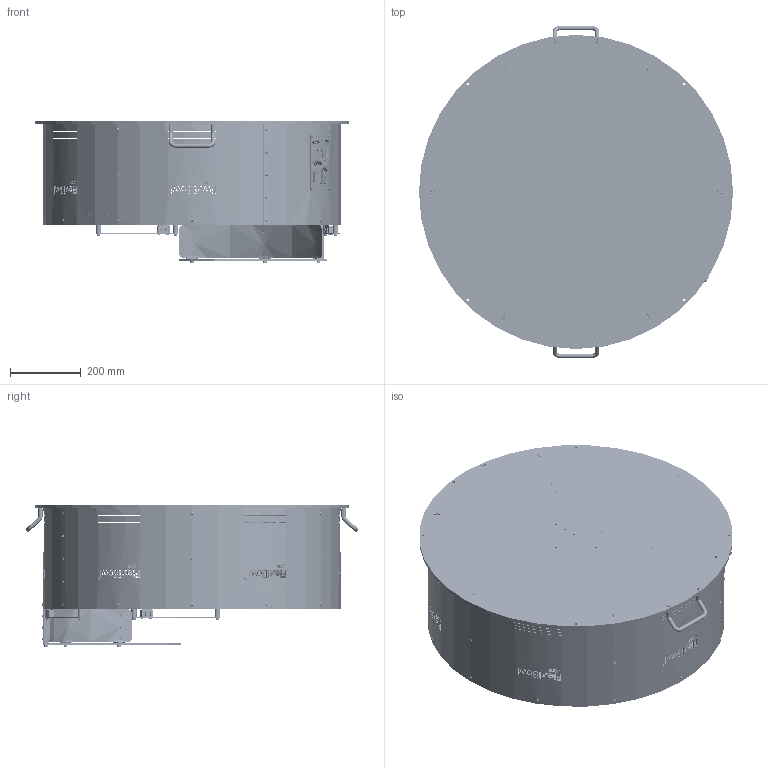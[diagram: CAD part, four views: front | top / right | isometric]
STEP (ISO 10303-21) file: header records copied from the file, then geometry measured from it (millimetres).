
FILE_DESCRIPTION (( 'STEP AP214' ), '1' );
FILE_NAME ('FB800C.STEP', '2021-09-09T13:43:02', ( '' ), ( '' ), 'SwSTEP 2.0', 'SolidWorks 2020', '' );
FILE_SCHEMA (( 'AUTOMOTIVE_DESIGN' ));
Length unit declared in the file: millimetre
Products named in the file (71): PD001063; CE000327; PD000137; Copia di 39-01-2025^CE000302; Copia di CE000327^CE000327; CE000302; PD001101; CM000008_001; PD001744; Copia di 39-01-2045^CE000326; CM000008; PD001743; PD001086; CM000025; CM000686_001; CE000013; PD001360_FB800; CM000686_002; CE000030; CM000051; CE000326; CM000024; PD001585; CM000027; CM000050; CM000006; CM000008_004; PD001124; CM000015_001; PD001122; PD002029; CM000015; CM000091; FB800C; PD001569; Copia di Led RDY_FLT^CE000326; CM000001; CM000008_003; PD001440; PD001356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
Assembly tree (202 placements, depth 3):
  FB800C
    CM000032  x4
    CM000031  x9
    CM000170  x6
    CM000048  x28
    CM000478  x9
    CM000050  x3
    CM000166  x8
    CM000642  x4
    CM000035  x4
    CM000027  x4
    CM000091  x2
    CM000086  x15
    CM000051  x4
    CM000025  x4
    CM000043  x2
    CM000026  x10
    CM000024  x10
    CM000006  x4
    PD001086
    CM000001  x2
    PD001440  x6
    PD001569
    PD001744
    PD001743
    PD001736  x2
    PD000137
    PD001063
    PD001585  x3
    PD001583  x3
    PD001087
    PD001101
    PD000043  x4
    PD001123  x2
    PD001119  x2
    PD001124
    PD001122
    PD001356
    PD000709
    PD001360_FB800
    CE000007
    CM000015  x2
      CM000015_001
      CM000015_002
    CE000013  x2
    CE000005
    CM000008
      CM000008_001
      CM000008_003  x2
      CM000008_002
      CM000008_004
      CM000008_005
    CE000302
      Copia di connector_a-ds_25_pp-f^CE000302
      Copia di 15 poli femmina^CE000302
      Copia di connector_amet-15rs^CE000302
      Copia di Connettore te 2 poli - Copia^CE000302
      Copia di 39-01-2025^CE000302
    CE000030  x2
    CE000316
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Bounding box: 890 x 940.65 x 402.5 mm (x, y, z)
Volume: 14819936 mm3; surface area: 5937417.8 mm2
Topology: 210 solids, 210 shells, 10293 faces, 26357 edges, 16851 vertices
Faces by surface type: plane 5237, cylinder 2375, cone 1239, bspline 871, torus 531, sphere 40
Entity records: 310760 total; most frequent: CARTESIAN_POINT 97773, ORIENTED_EDGE 38358, DIRECTION 33434, EDGE_CURVE 19179, VERTEX_POINT 12781, AXIS2_PLACEMENT_3D 11415, LINE 10604, VECTOR 10604
